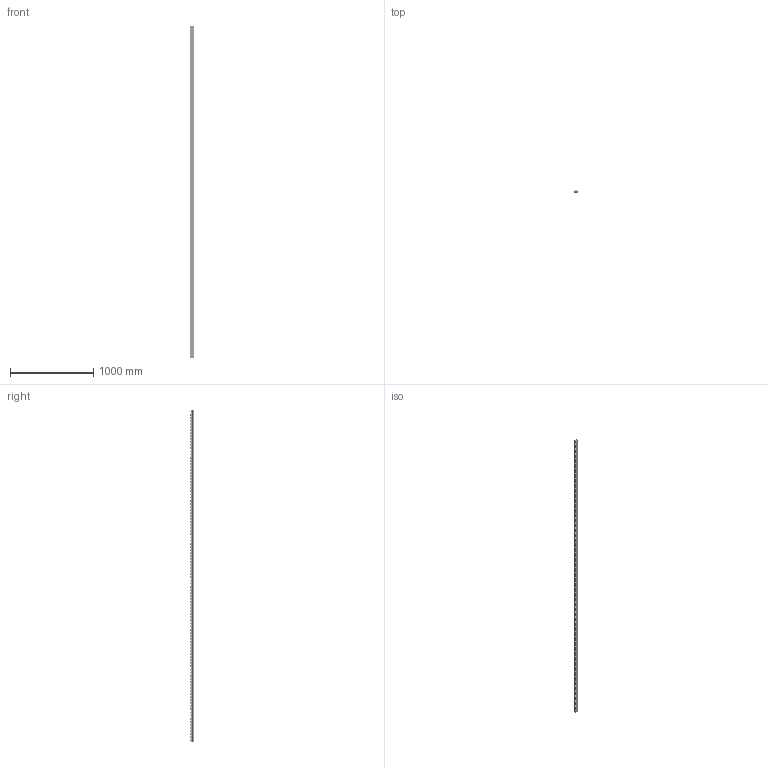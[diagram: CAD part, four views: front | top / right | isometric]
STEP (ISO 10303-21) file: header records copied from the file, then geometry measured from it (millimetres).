
FILE_DESCRIPTION (( 'STEP AP203' ), '1' );
FILE_NAME ('015.200.006.STEP', '2016-10-24T07:49:18', ( '' ), ( '' ), 'SwSTEP 2.0', 'SolidWorks 2016', '' );
FILE_SCHEMA (( 'CONFIG_CONTROL_DESIGN' ));
Length unit declared in the file: millimetre
Products named in the file (3): 015.200.006_1_100<A macchina>; 015.200.006; 015.200.006_2
Assembly tree (109 placements, depth 2):
  015.200.006
    015.200.006_1_100<A macchina>
    015.200.006_2  x108
Bounding box: 41 x 44.99 x 4000 mm (x, y, z)
Volume: 2044549.6 mm3; surface area: 1893520 mm2
Topology: 325 solids, 325 shells, 9256 faces, 25170 edges, 16348 vertices
Faces by surface type: plane 4572, cylinder 3388, torus 1296
Entity records: 129179 total; most frequent: DIRECTION 22918, ORIENTED_EDGE 22092, CARTESIAN_POINT 21782, EDGE_CURVE 11046, AXIS2_PLACEMENT_3D 8496, VERTEX_POINT 7360, VECTOR 5926, LINE 5926
